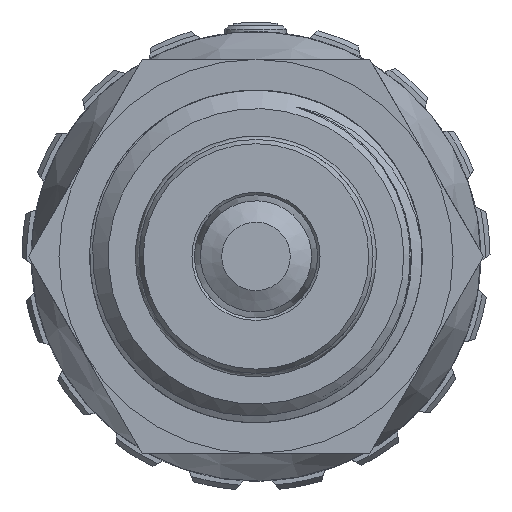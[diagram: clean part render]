
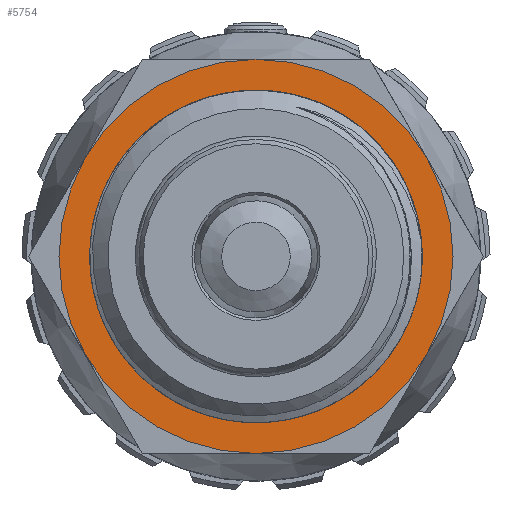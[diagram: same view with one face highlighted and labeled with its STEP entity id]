
A CAD part, front view. The second image highlights one B-rep face of the part: STEP entity #5754.
In plain terms, the highlighted planar face has unit normal (0, -1, 0) as drawn and (0, 0, 1) by its records, which use the part's own axes.
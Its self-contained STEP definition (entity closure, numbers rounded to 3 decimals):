
#3650 = PLANE ( 'NONE',  #28851 ) ;
#3765 = DIRECTION ( 'NONE',  ( 0., 0., -1. ) ) ;
#3799 = CARTESIAN_POINT ( 'NONE',  ( 0., 0., 8.5 ) ) ;
#5754 = ADVANCED_FACE ( 'NONE', ( #16090, #20611 ), #3650, .T. ) ;
#6110 = CARTESIAN_POINT ( 'NONE',  ( 16., 0., 8.5 ) ) ;
#6354 = DIRECTION ( 'NONE',  ( 1., 0., 0. ) ) ;
#6835 = DIRECTION ( 'NONE',  ( 1., 0., 0. ) ) ;
#10151 = AXIS2_PLACEMENT_3D ( 'NONE', #25904, #3765, #6354 ) ;
#12260 = VERTEX_POINT ( 'NONE', #22091 ) ;
#13378 = EDGE_LOOP ( 'NONE', ( #15462 ) ) ;
#15462 = ORIENTED_EDGE ( 'NONE', *, *, #17412, .T. ) ;
#15964 = VERTEX_POINT ( 'NONE', #6110 ) ;
#16090 = FACE_BOUND ( 'NONE', #19160, .T. ) ;
#17412 = EDGE_CURVE ( 'NONE', #15964, #15964, #23162, .T. ) ;
#18193 = DIRECTION ( 'NONE',  ( 1., 0., 0. ) ) ;
#19160 = EDGE_LOOP ( 'NONE', ( #21294 ) ) ;
#20066 = AXIS2_PLACEMENT_3D ( 'NONE', #21693, #24447, #6835 ) ;
#20611 = FACE_OUTER_BOUND ( 'NONE', #13378, .T. ) ;
#21091 = DIRECTION ( 'NONE',  ( 0., 0., 1. ) ) ;
#21294 = ORIENTED_EDGE ( 'NONE', *, *, #25740, .T. ) ;
#21693 = CARTESIAN_POINT ( 'NONE',  ( 0., 0., 8.5 ) ) ;
#22091 = CARTESIAN_POINT ( 'NONE',  ( 12.2, 0., 8.5 ) ) ;
#23162 = CIRCLE ( 'NONE', #20066, 16. ) ;
#24447 = DIRECTION ( 'NONE',  ( 0., 0., 1. ) ) ;
#25601 = CIRCLE ( 'NONE', #10151, 12.2 ) ;
#25740 = EDGE_CURVE ( 'NONE', #12260, #12260, #25601, .T. ) ;
#25904 = CARTESIAN_POINT ( 'NONE',  ( 0., 0., 8.5 ) ) ;
#28851 = AXIS2_PLACEMENT_3D ( 'NONE', #3799, #21091, #18193 ) ;
